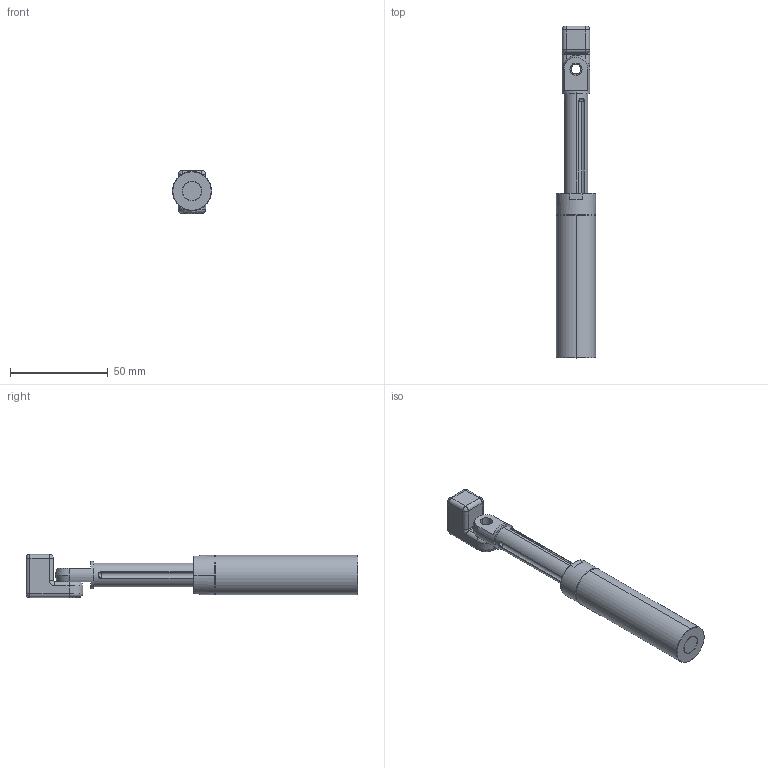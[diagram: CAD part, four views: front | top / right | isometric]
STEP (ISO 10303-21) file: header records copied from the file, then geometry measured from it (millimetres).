
FILE_DESCRIPTION (( 'STEP AP214' ), '1' );
FILE_NAME ('VFE2051-G18.STEP', '2019-11-15T07:03:30', ( '微软用户' ), ( '微软中国' ), 'SwSTEP 2.0', 'SolidWorks 2016', '' );
FILE_SCHEMA (( 'AUTOMOTIVE_DESIGN' ));
Length unit declared in the file: millimetre
Products named in the file (1): VFE2051-G18
Bounding box: 20 x 169.5 x 22 mm (x, y, z)
Volume: 34065.7 mm3; surface area: 19138.2 mm2
Topology: 4 solids, 4 shells, 174 faces, 416 edges, 252 vertices
Faces by surface type: cylinder 83, plane 36, bspline 33, cone 22
Entity records: 12666 total; most frequent: CARTESIAN_POINT 6955, ORIENTED_EDGE 812, DIRECTION 733, EDGE_CURVE 406, AXIS2_PLACEMENT_3D 290, VERTEX_POINT 252, EDGE_LOOP 202, UNCERTAINTY_MEASURE_WITH_UNIT 180
